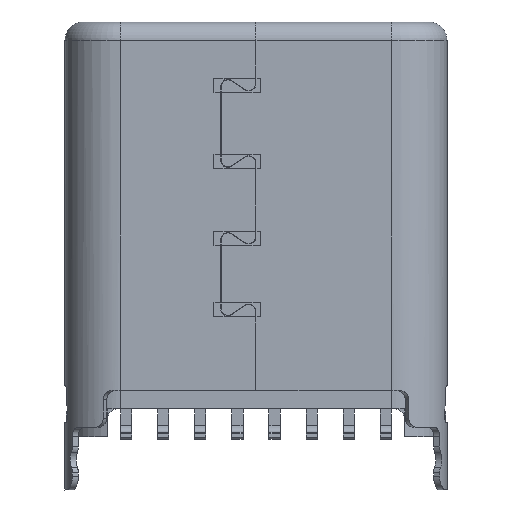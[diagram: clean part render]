
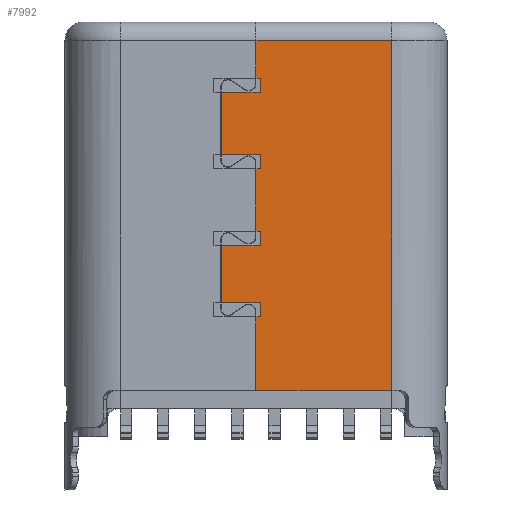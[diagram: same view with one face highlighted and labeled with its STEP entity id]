
A CAD part, front view. The second image highlights one B-rep face of the part: STEP entity #7992.
In plain terms, the highlighted planar face has unit normal (0, -1, 0).
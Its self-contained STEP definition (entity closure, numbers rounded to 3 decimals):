
#7584=B_SPLINE_CURVE_WITH_KNOTS('',3,(#45510,#45511,#45512,#45513),
 .UNSPECIFIED.,.F.,.F.,(4,4),(0.,1.),.UNSPECIFIED.);
#7992=ADVANCED_FACE('',(#10296),#9308,.T.);
#9308=PLANE('',#34749);
#10296=FACE_OUTER_BOUND('',#11614,.T.);
#11614=EDGE_LOOP('',(#13995,#13996,#13997,#13998,#13999,#14000,#14001,#14002,
#14003,#14004,#14005,#14006,#14007,#14008,#14009,#14010,#14011,#14012,#14013,
#14014));
#13995=ORIENTED_EDGE('',*,*,#24833,.F.);
#13996=ORIENTED_EDGE('',*,*,#24540,.T.);
#13997=ORIENTED_EDGE('',*,*,#24834,.T.);
#13998=ORIENTED_EDGE('',*,*,#24485,.F.);
#13999=ORIENTED_EDGE('',*,*,#24832,.T.);
#14000=ORIENTED_EDGE('',*,*,#24835,.T.);
#14001=ORIENTED_EDGE('',*,*,#24836,.T.);
#14002=ORIENTED_EDGE('',*,*,#24837,.T.);
#14003=ORIENTED_EDGE('',*,*,#24838,.T.);
#14004=ORIENTED_EDGE('',*,*,#24839,.T.);
#14005=ORIENTED_EDGE('',*,*,#24840,.T.);
#14006=ORIENTED_EDGE('',*,*,#24841,.T.);
#14007=ORIENTED_EDGE('',*,*,#24842,.T.);
#14008=ORIENTED_EDGE('',*,*,#24843,.T.);
#14009=ORIENTED_EDGE('',*,*,#24844,.T.);
#14010=ORIENTED_EDGE('',*,*,#24845,.T.);
#14011=ORIENTED_EDGE('',*,*,#24846,.T.);
#14012=ORIENTED_EDGE('',*,*,#24847,.T.);
#14013=ORIENTED_EDGE('',*,*,#24848,.T.);
#14014=ORIENTED_EDGE('',*,*,#24849,.F.);
#21734=VERTEX_POINT('',#43551);
#21735=VERTEX_POINT('',#43553);
#21739=VERTEX_POINT('',#43562);
#21785=VERTEX_POINT('',#43861);
#21947=VERTEX_POINT('',#45101);
#22024=VERTEX_POINT('',#45507);
#22025=VERTEX_POINT('',#45516);
#22026=VERTEX_POINT('',#45518);
#22027=VERTEX_POINT('',#45520);
#22028=VERTEX_POINT('',#45522);
#22029=VERTEX_POINT('',#45524);
#22030=VERTEX_POINT('',#45526);
#22031=VERTEX_POINT('',#45528);
#22032=VERTEX_POINT('',#45530);
#22033=VERTEX_POINT('',#45532);
#22034=VERTEX_POINT('',#45534);
#22035=VERTEX_POINT('',#45536);
#22036=VERTEX_POINT('',#45538);
#22037=VERTEX_POINT('',#45540);
#22038=VERTEX_POINT('',#45542);
#24485=EDGE_CURVE('',#21734,#21735,#28558,.T.);
#24540=EDGE_CURVE('',#21739,#21785,#28575,.T.);
#24832=EDGE_CURVE('',#21734,#22024,#28706,.T.);
#24833=EDGE_CURVE('',#21739,#21947,#7584,.T.);
#24834=EDGE_CURVE('',#21785,#21735,#28707,.T.);
#24835=EDGE_CURVE('',#22024,#22025,#28708,.T.);
#24836=EDGE_CURVE('',#22025,#22026,#28709,.T.);
#24837=EDGE_CURVE('',#22026,#22027,#28710,.T.);
#24838=EDGE_CURVE('',#22027,#22028,#28711,.T.);
#24839=EDGE_CURVE('',#22028,#22029,#28712,.T.);
#24840=EDGE_CURVE('',#22029,#22030,#28713,.T.);
#24841=EDGE_CURVE('',#22030,#22031,#28714,.T.);
#24842=EDGE_CURVE('',#22031,#22032,#28715,.T.);
#24843=EDGE_CURVE('',#22032,#22033,#28716,.T.);
#24844=EDGE_CURVE('',#22033,#22034,#28717,.T.);
#24845=EDGE_CURVE('',#22034,#22035,#28718,.T.);
#24846=EDGE_CURVE('',#22035,#22036,#28719,.T.);
#24847=EDGE_CURVE('',#22036,#22037,#28720,.T.);
#24848=EDGE_CURVE('',#22037,#22038,#28721,.T.);
#24849=EDGE_CURVE('',#21947,#22038,#28722,.T.);
#28558=LINE('',#43552,#31572);
#28575=LINE('',#43862,#31589);
#28706=LINE('',#45508,#31720);
#28707=LINE('',#45514,#31721);
#28708=LINE('',#45515,#31722);
#28709=LINE('',#45517,#31723);
#28710=LINE('',#45519,#31724);
#28711=LINE('',#45521,#31725);
#28712=LINE('',#45523,#31726);
#28713=LINE('',#45525,#31727);
#28714=LINE('',#45527,#31728);
#28715=LINE('',#45529,#31729);
#28716=LINE('',#45531,#31730);
#28717=LINE('',#45533,#31731);
#28718=LINE('',#45535,#31732);
#28719=LINE('',#45537,#31733);
#28720=LINE('',#45539,#31734);
#28721=LINE('',#45541,#31735);
#28722=LINE('',#45543,#31736);
#31572=VECTOR('',#36583,1.);
#31589=VECTOR('',#36648,1.);
#31720=VECTOR('',#36965,1.);
#31721=VECTOR('',#36968,1.);
#31722=VECTOR('',#36969,1.);
#31723=VECTOR('',#36970,1.);
#31724=VECTOR('',#36971,1.);
#31725=VECTOR('',#36972,1.);
#31726=VECTOR('',#36973,1.);
#31727=VECTOR('',#36974,1.);
#31728=VECTOR('',#36975,1.);
#31729=VECTOR('',#36976,1.);
#31730=VECTOR('',#36977,1.);
#31731=VECTOR('',#36978,1.);
#31732=VECTOR('',#36979,1.);
#31733=VECTOR('',#36980,1.);
#31734=VECTOR('',#36981,1.);
#31735=VECTOR('',#36982,1.);
#31736=VECTOR('',#36983,1.);
#34749=AXIS2_PLACEMENT_3D('',#45544,#36984,#36985);
#36583=DIRECTION('',(0.,0.,1.));
#36648=DIRECTION('',(0.,0.,1.));
#36965=DIRECTION('',(1.,0.,0.));
#36968=DIRECTION('',(-1.,0.,0.));
#36969=DIRECTION('',(0.,0.,-1.));
#36970=DIRECTION('',(-1.,0.,0.));
#36971=DIRECTION('',(0.,0.,-1.));
#36972=DIRECTION('',(1.,0.,0.));
#36973=DIRECTION('',(0.,0.,-1.));
#36974=DIRECTION('',(-1.,0.,0.));
#36975=DIRECTION('',(0.,0.,-1.));
#36976=DIRECTION('',(1.,0.,0.));
#36977=DIRECTION('',(0.,0.,-1.));
#36978=DIRECTION('',(-1.,0.,0.));
#36979=DIRECTION('',(0.,0.,-1.));
#36980=DIRECTION('',(1.,0.,0.));
#36981=DIRECTION('',(0.,0.,-1.));
#36982=DIRECTION('',(-1.,0.,0.));
#36983=DIRECTION('',(0.,0.,1.));
#36984=DIRECTION('',(0.,-1.,0.));
#36985=DIRECTION('',(1.,0.,0.));
#43551=CARTESIAN_POINT('',(0.,-1.199,-1.06));
#43552=CARTESIAN_POINT('',(0.,-1.199,-1.06));
#43553=CARTESIAN_POINT('',(0.,-1.199,-0.245));
#43562=CARTESIAN_POINT('',(2.925,-1.197,-7.798));
#43861=CARTESIAN_POINT('',(2.925,-1.199,-0.245));
#43862=CARTESIAN_POINT('',(2.925,-1.199,-7.798));
#45101=CARTESIAN_POINT('',(-0.005,-1.196,-7.798));
#45507=CARTESIAN_POINT('',(0.09,-1.199,-1.06));
#45508=CARTESIAN_POINT('',(0.,-1.199,-1.06));
#45510=CARTESIAN_POINT('',(2.925,-1.196,-7.798));
#45511=CARTESIAN_POINT('',(1.948,-1.196,-7.798));
#45512=CARTESIAN_POINT('',(0.972,-1.196,-7.798));
#45513=CARTESIAN_POINT('',(-0.005,-1.196,-7.798));
#45514=CARTESIAN_POINT('',(2.925,-1.199,-0.245));
#45515=CARTESIAN_POINT('',(0.09,-1.199,-1.06));
#45516=CARTESIAN_POINT('',(0.09,-1.199,-1.363));
#45517=CARTESIAN_POINT('',(0.09,-1.199,-1.363));
#45518=CARTESIAN_POINT('',(-0.75,-1.199,-1.363));
#45519=CARTESIAN_POINT('',(-0.75,-1.199,-1.363));
#45520=CARTESIAN_POINT('',(-0.75,-1.199,-2.706));
#45521=CARTESIAN_POINT('',(-0.75,-1.199,-2.706));
#45522=CARTESIAN_POINT('',(0.09,-1.199,-2.706));
#45523=CARTESIAN_POINT('',(0.09,-1.199,-2.706));
#45524=CARTESIAN_POINT('',(0.09,-1.199,-3.009));
#45525=CARTESIAN_POINT('',(0.09,-1.199,-3.009));
#45526=CARTESIAN_POINT('',(0.,-1.199,-3.009));
#45527=CARTESIAN_POINT('',(0.,-1.199,-3.009));
#45528=CARTESIAN_POINT('',(0.,-1.199,-4.364));
#45529=CARTESIAN_POINT('',(0.,-1.199,-4.364));
#45530=CARTESIAN_POINT('',(0.09,-1.199,-4.364));
#45531=CARTESIAN_POINT('',(0.09,-1.199,-4.364));
#45532=CARTESIAN_POINT('',(0.09,-1.199,-4.667));
#45533=CARTESIAN_POINT('',(0.09,-1.199,-4.667));
#45534=CARTESIAN_POINT('',(-0.75,-1.199,-4.667));
#45535=CARTESIAN_POINT('',(-0.75,-1.199,-4.667));
#45536=CARTESIAN_POINT('',(-0.75,-1.199,-5.91));
#45537=CARTESIAN_POINT('',(-0.75,-1.199,-5.91));
#45538=CARTESIAN_POINT('',(0.09,-1.199,-5.91));
#45539=CARTESIAN_POINT('',(0.09,-1.199,-5.91));
#45540=CARTESIAN_POINT('',(0.09,-1.199,-6.213));
#45541=CARTESIAN_POINT('',(0.09,-1.199,-6.213));
#45542=CARTESIAN_POINT('',(0.,-1.199,-6.213));
#45543=CARTESIAN_POINT('',(0.,-1.199,-7.798));
#45544=CARTESIAN_POINT('',(-2.925,-1.199,-8.345));
